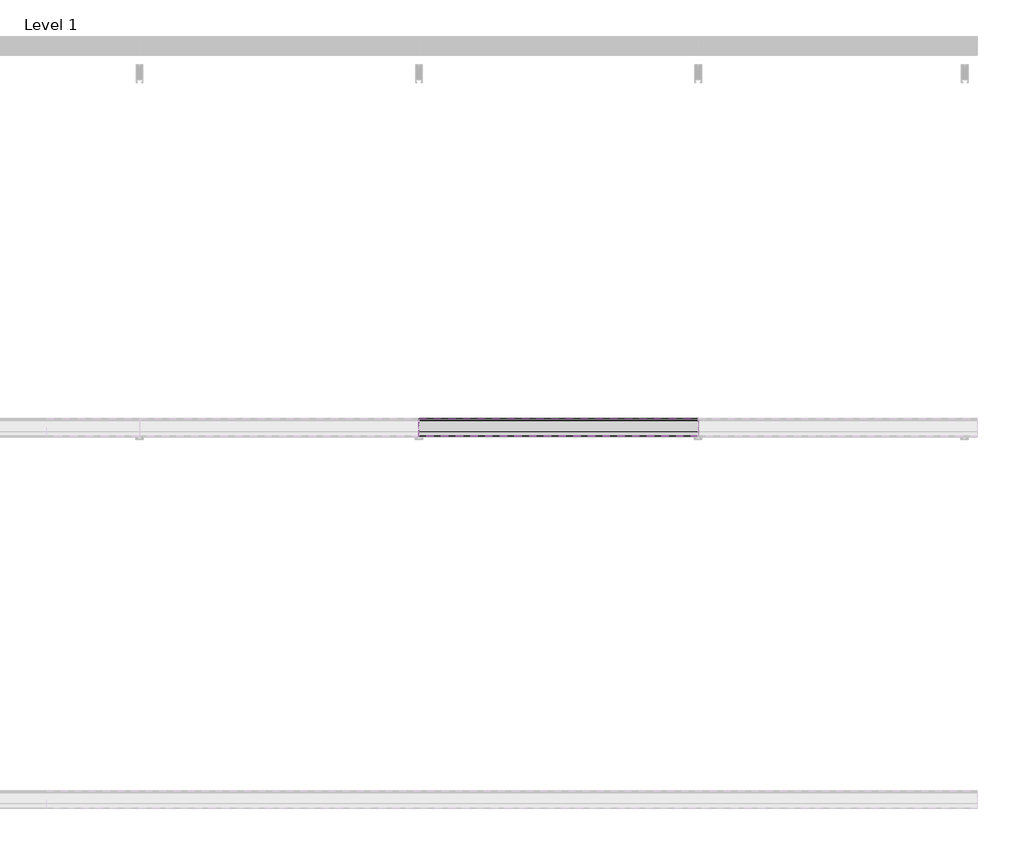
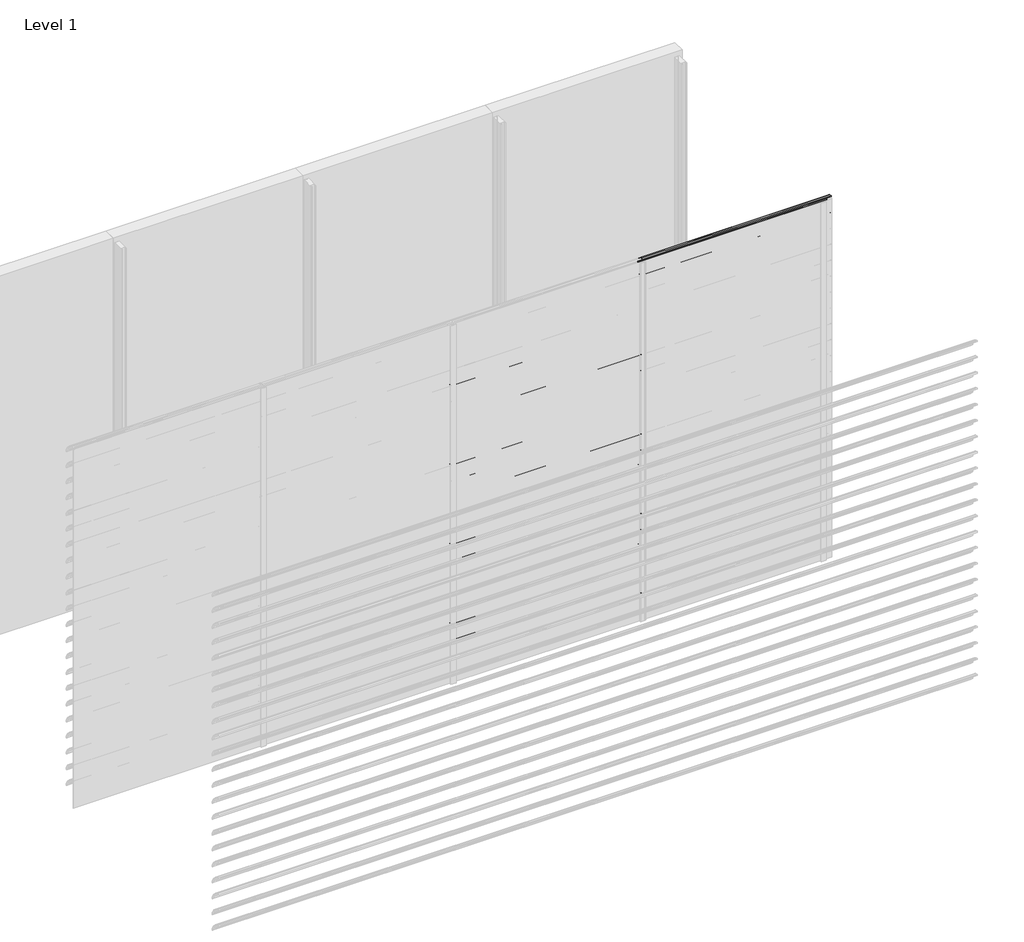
# One storey, part 34 of 57: 20 proxies.
"""IFC4 building model written with IfcOpenShell, lengths in millimetres."""

from ifc_helpers import new_model, si_unit, point, frame, frame_2d, origin, place, context, project, spatial, polyline, circle_curve, trimmed, segment, composite_curve, outline, extrude, element, save

model = new_model("IFC4")

# Units and contexts
model_context = context("Model", 3, world=origin())
ifc_project = project(units=[si_unit("LENGTHUNIT", "METRE", prefix="MILLI")], contexts=[model_context])

# Site, building, storey
site = spatial("IfcSite", under=ifc_project)
building = spatial("IfcBuilding", under=site)
storey = spatial("IfcBuildingStorey", under=building, Name="Level 1", Elevation=0.0)

# Proxies
placement = place(None, origin())
element("IfcBuildingElementProxy", 1, Name="Wall Sweeps", at=placement, inside=storey, context=model_context, shape_type="SweptSolid", body=[
    extrude(outline(composite_curve([segment(trimmed(circle_curve(frame_2d((-23993.7822526, 2484.4913792)), 4.2177474), [point((-23989.6985606, 2485.5462976))], [point((-23993.7822526, 2488.7091266))], False, "CARTESIAN"), True, "CONTINUOUS"), segment(trimmed(circle_curve(frame_2d((-24018.7150834, 2386.2536312)), 105.4456002), [point((-23993.7822526, 2488.7091266))], [point((-23971.7914298, 2480.6832099))], False, "CARTESIAN"), True, "CONTINUOUS"), segment(trimmed(circle_curve(frame_2d((-24061.7199745, 2332.0352476)), 173.7335887), [point((-23971.7914298, 2480.6832099))], [point((-23913.0720121, 2421.9637922))], False, "CARTESIAN"), True, "CONTINUOUS"), segment(trimmed(circle_curve(frame_2d((-24004.9297178, 2370.1860314)), 105.4456002), [point((-23913.0720121, 2421.9637922))], [point((-23903.6249616, 2399.4455765))], False, "CARTESIAN"), True, "CONTINUOUS"), segment(trimmed(circle_curve(frame_2d((-23907.809737, 2398.3307305)), 4.3307305), [point((-23903.6249616, 2399.4455765))], [point((-23909.0769196, 2394.189538))], False, "CARTESIAN"), True, "CONTINUOUS"), segment(polyline([(-23909.0769196, 2394.189538), (-23934.7401984, 2418.9722783)]), True, "CONTINUOUS"), segment(trimmed(circle_curve(frame_2d((-23931.3879574, 2421.2977626)), 4.079877), [point((-23934.7401984, 2418.9722783))], [point((-23930.7310597, 2425.3244091))], False, "CARTESIAN"), True, "CONTINUOUS"), segment(trimmed(circle_curve(frame_2d((-24014.6665585, 2403.2544323)), 86.7885467), [point((-23930.7310597, 2425.3244091))], [point((-23942.3028351, 2451.1683485))], True, "CARTESIAN"), True, "CONTINUOUS"), segment(polyline([(-23942.3028351, 2451.1683485), (-23940.7230099, 2453.9046861)]), True, "CONTINUOUS"), segment(trimmed(circle_curve(frame_2d((-24061.7199745, 2332.0352476)), 171.7335887), [point((-23940.7230099, 2453.9046861))], [point((-23972.7555872, 2478.9289618))], True, "CARTESIAN"), True, "CONTINUOUS"), segment(trimmed(circle_curve(frame_2d((-24018.7150834, 2386.2536312)), 103.4456002), [point((-23972.7555872, 2478.9289618))], [point((-23989.6985606, 2485.5462976))], True, "CARTESIAN"), True, "CONTINUOUS")], self_intersect=False)), frame((3000.0, 0.0, 0.0), z_axis=(1.0, 0.0, 0.0), x_axis=(0.0, 1.0, 0.0)), (0.0, 0.0, 1.0), 1500.0),
])
element("IfcBuildingElementProxy", 2, Name="Wall Sweeps", at=placement, inside=storey, context=model_context, shape_type="SweptSolid", body=[
    extrude(outline(composite_curve([segment(trimmed(circle_curve(frame_2d((-23993.7822526, 2351.4913792)), 4.2177474), [point((-23989.6985606, 2352.5462976))], [point((-23993.7822526, 2355.7091266))], False, "CARTESIAN"), True, "CONTINUOUS"), segment(trimmed(circle_curve(frame_2d((-24018.7150834, 2253.2536312)), 105.4456002), [point((-23993.7822526, 2355.7091266))], [point((-23971.7914298, 2347.6832099))], False, "CARTESIAN"), True, "CONTINUOUS"), segment(trimmed(circle_curve(frame_2d((-24061.7199745, 2199.0352476)), 173.7335887), [point((-23971.7914298, 2347.6832099))], [point((-23913.0720121, 2288.9637922))], False, "CARTESIAN"), True, "CONTINUOUS"), segment(trimmed(circle_curve(frame_2d((-24004.9297178, 2237.1860314)), 105.4456002), [point((-23913.0720121, 2288.9637922))], [point((-23903.6249616, 2266.4455765))], False, "CARTESIAN"), True, "CONTINUOUS"), segment(trimmed(circle_curve(frame_2d((-23907.809737, 2265.3307305)), 4.3307305), [point((-23903.6249616, 2266.4455765))], [point((-23909.0769196, 2261.189538))], False, "CARTESIAN"), True, "CONTINUOUS"), segment(polyline([(-23909.0769196, 2261.189538), (-23934.7401984, 2285.9722783)]), True, "CONTINUOUS"), segment(trimmed(circle_curve(frame_2d((-23931.3879574, 2288.2977626)), 4.079877), [point((-23934.7401984, 2285.9722783))], [point((-23930.7310597, 2292.3244091))], False, "CARTESIAN"), True, "CONTINUOUS"), segment(trimmed(circle_curve(frame_2d((-24014.6665585, 2270.2544323)), 86.7885467), [point((-23930.7310597, 2292.3244091))], [point((-23942.3028351, 2318.1683485))], True, "CARTESIAN"), True, "CONTINUOUS"), segment(polyline([(-23942.3028351, 2318.1683485), (-23940.7230099, 2320.9046861)]), True, "CONTINUOUS"), segment(trimmed(circle_curve(frame_2d((-24061.7199745, 2199.0352476)), 171.7335887), [point((-23940.7230099, 2320.9046861))], [point((-23972.7555872, 2345.9289618))], True, "CARTESIAN"), True, "CONTINUOUS"), segment(trimmed(circle_curve(frame_2d((-24018.7150834, 2253.2536312)), 103.4456002), [point((-23972.7555872, 2345.9289618))], [point((-23989.6985606, 2352.5462976))], True, "CARTESIAN"), True, "CONTINUOUS")], self_intersect=False)), frame((3000.0, 0.0, 0.0), z_axis=(1.0, 0.0, 0.0), x_axis=(0.0, 1.0, 0.0)), (0.0, 0.0, 1.0), 1500.0),
])
element("IfcBuildingElementProxy", 3, Name="Wall Sweeps", at=placement, inside=storey, context=model_context, shape_type="SweptSolid", body=[
    extrude(outline(composite_curve([segment(trimmed(circle_curve(frame_2d((-23993.7822526, 2218.4913792)), 4.2177474), [point((-23989.6985606, 2219.5462976))], [point((-23993.7822526, 2222.7091266))], False, "CARTESIAN"), True, "CONTINUOUS"), segment(trimmed(circle_curve(frame_2d((-24018.7150834, 2120.2536312)), 105.4456002), [point((-23993.7822526, 2222.7091266))], [point((-23971.7914298, 2214.6832099))], False, "CARTESIAN"), True, "CONTINUOUS"), segment(trimmed(circle_curve(frame_2d((-24061.7199745, 2066.0352476)), 173.7335887), [point((-23971.7914298, 2214.6832099))], [point((-23913.0720121, 2155.9637922))], False, "CARTESIAN"), True, "CONTINUOUS"), segment(trimmed(circle_curve(frame_2d((-24004.9297178, 2104.1860314)), 105.4456002), [point((-23913.0720121, 2155.9637922))], [point((-23903.6249616, 2133.4455765))], False, "CARTESIAN"), True, "CONTINUOUS"), segment(trimmed(circle_curve(frame_2d((-23907.809737, 2132.3307305)), 4.3307305), [point((-23903.6249616, 2133.4455765))], [point((-23909.0769196, 2128.189538))], False, "CARTESIAN"), True, "CONTINUOUS"), segment(polyline([(-23909.0769196, 2128.189538), (-23934.7401984, 2152.9722783)]), True, "CONTINUOUS"), segment(trimmed(circle_curve(frame_2d((-23931.3879574, 2155.2977626)), 4.079877), [point((-23934.7401984, 2152.9722783))], [point((-23930.7310597, 2159.3244091))], False, "CARTESIAN"), True, "CONTINUOUS"), segment(trimmed(circle_curve(frame_2d((-24014.6665585, 2137.2544323)), 86.7885467), [point((-23930.7310597, 2159.3244091))], [point((-23942.3028351, 2185.1683485))], True, "CARTESIAN"), True, "CONTINUOUS"), segment(polyline([(-23942.3028351, 2185.1683485), (-23940.7230099, 2187.9046861)]), True, "CONTINUOUS"), segment(trimmed(circle_curve(frame_2d((-24061.7199745, 2066.0352476)), 171.7335887), [point((-23940.7230099, 2187.9046861))], [point((-23972.7555872, 2212.9289618))], True, "CARTESIAN"), True, "CONTINUOUS"), segment(trimmed(circle_curve(frame_2d((-24018.7150834, 2120.2536312)), 103.4456002), [point((-23972.7555872, 2212.9289618))], [point((-23989.6985606, 2219.5462976))], True, "CARTESIAN"), True, "CONTINUOUS")], self_intersect=False)), frame((3000.0, 0.0, 0.0), z_axis=(1.0, 0.0, 0.0), x_axis=(0.0, 1.0, 0.0)), (0.0, 0.0, 1.0), 1500.0),
])
element("IfcBuildingElementProxy", 4, Name="Wall Sweeps", at=placement, inside=storey, context=model_context, shape_type="SweptSolid", body=[
    extrude(outline(composite_curve([segment(trimmed(circle_curve(frame_2d((-23993.7822526, 2085.4913792)), 4.2177474), [point((-23989.6985606, 2086.5462976))], [point((-23993.7822526, 2089.7091266))], False, "CARTESIAN"), True, "CONTINUOUS"), segment(trimmed(circle_curve(frame_2d((-24018.7150834, 1987.2536312)), 105.4456002), [point((-23993.7822526, 2089.7091266))], [point((-23971.7914298, 2081.6832099))], False, "CARTESIAN"), True, "CONTINUOUS"), segment(trimmed(circle_curve(frame_2d((-24061.7199745, 1933.0352476)), 173.7335887), [point((-23971.7914298, 2081.6832099))], [point((-23913.0720121, 2022.9637922))], False, "CARTESIAN"), True, "CONTINUOUS"), segment(trimmed(circle_curve(frame_2d((-24004.9297178, 1971.1860314)), 105.4456002), [point((-23913.0720121, 2022.9637922))], [point((-23903.6249616, 2000.4455765))], False, "CARTESIAN"), True, "CONTINUOUS"), segment(trimmed(circle_curve(frame_2d((-23907.809737, 1999.3307305)), 4.3307305), [point((-23903.6249616, 2000.4455765))], [point((-23909.0769196, 1995.189538))], False, "CARTESIAN"), True, "CONTINUOUS"), segment(polyline([(-23909.0769196, 1995.189538), (-23934.7401984, 2019.9722783)]), True, "CONTINUOUS"), segment(trimmed(circle_curve(frame_2d((-23931.3879574, 2022.2977626)), 4.079877), [point((-23934.7401984, 2019.9722783))], [point((-23930.7310597, 2026.3244091))], False, "CARTESIAN"), True, "CONTINUOUS"), segment(trimmed(circle_curve(frame_2d((-24014.6665585, 2004.2544323)), 86.7885467), [point((-23930.7310597, 2026.3244091))], [point((-23942.3028351, 2052.1683485))], True, "CARTESIAN"), True, "CONTINUOUS"), segment(polyline([(-23942.3028351, 2052.1683485), (-23940.7230099, 2054.9046861)]), True, "CONTINUOUS"), segment(trimmed(circle_curve(frame_2d((-24061.7199745, 1933.0352476)), 171.7335887), [point((-23940.7230099, 2054.9046861))], [point((-23972.7555872, 2079.9289618))], True, "CARTESIAN"), True, "CONTINUOUS"), segment(trimmed(circle_curve(frame_2d((-24018.7150834, 1987.2536312)), 103.4456002), [point((-23972.7555872, 2079.9289618))], [point((-23989.6985606, 2086.5462976))], True, "CARTESIAN"), True, "CONTINUOUS")], self_intersect=False)), frame((3000.0, 0.0, 0.0), z_axis=(1.0, 0.0, 0.0), x_axis=(0.0, 1.0, 0.0)), (0.0, 0.0, 1.0), 1500.0),
])
element("IfcBuildingElementProxy", 5, Name="Wall Sweeps", at=placement, inside=storey, context=model_context, shape_type="SweptSolid", body=[
    extrude(outline(composite_curve([segment(trimmed(circle_curve(frame_2d((-23993.7822526, 1952.4913792)), 4.2177474), [point((-23989.6985606, 1953.5462976))], [point((-23993.7822526, 1956.7091266))], False, "CARTESIAN"), True, "CONTINUOUS"), segment(trimmed(circle_curve(frame_2d((-24018.7150834, 1854.2536312)), 105.4456002), [point((-23993.7822526, 1956.7091266))], [point((-23971.7914298, 1948.6832099))], False, "CARTESIAN"), True, "CONTINUOUS"), segment(trimmed(circle_curve(frame_2d((-24061.7199745, 1800.0352476)), 173.7335887), [point((-23971.7914298, 1948.6832099))], [point((-23913.0720121, 1889.9637922))], False, "CARTESIAN"), True, "CONTINUOUS"), segment(trimmed(circle_curve(frame_2d((-24004.9297178, 1838.1860314)), 105.4456002), [point((-23913.0720121, 1889.9637922))], [point((-23903.6249616, 1867.4455765))], False, "CARTESIAN"), True, "CONTINUOUS"), segment(trimmed(circle_curve(frame_2d((-23907.809737, 1866.3307305)), 4.3307305), [point((-23903.6249616, 1867.4455765))], [point((-23909.0769196, 1862.189538))], False, "CARTESIAN"), True, "CONTINUOUS"), segment(polyline([(-23909.0769196, 1862.189538), (-23934.7401984, 1886.9722783)]), True, "CONTINUOUS"), segment(trimmed(circle_curve(frame_2d((-23931.3879574, 1889.2977626)), 4.079877), [point((-23934.7401984, 1886.9722783))], [point((-23930.7310597, 1893.3244091))], False, "CARTESIAN"), True, "CONTINUOUS"), segment(trimmed(circle_curve(frame_2d((-24014.6665585, 1871.2544323)), 86.7885467), [point((-23930.7310597, 1893.3244091))], [point((-23942.3028351, 1919.1683485))], True, "CARTESIAN"), True, "CONTINUOUS"), segment(polyline([(-23942.3028351, 1919.1683485), (-23940.7230099, 1921.9046861)]), True, "CONTINUOUS"), segment(trimmed(circle_curve(frame_2d((-24061.7199745, 1800.0352476)), 171.7335887), [point((-23940.7230099, 1921.9046861))], [point((-23972.7555872, 1946.9289618))], True, "CARTESIAN"), True, "CONTINUOUS"), segment(trimmed(circle_curve(frame_2d((-24018.7150834, 1854.2536312)), 103.4456002), [point((-23972.7555872, 1946.9289618))], [point((-23989.6985606, 1953.5462976))], True, "CARTESIAN"), True, "CONTINUOUS")], self_intersect=False)), frame((3000.0, 0.0, 0.0), z_axis=(1.0, 0.0, 0.0), x_axis=(0.0, 1.0, 0.0)), (0.0, 0.0, 1.0), 1500.0),
])
element("IfcBuildingElementProxy", 6, Name="Wall Sweeps", at=placement, inside=storey, context=model_context, shape_type="SweptSolid", body=[
    extrude(outline(composite_curve([segment(trimmed(circle_curve(frame_2d((-23993.7822526, 1819.4913792)), 4.2177474), [point((-23989.6985606, 1820.5462976))], [point((-23993.7822526, 1823.7091266))], False, "CARTESIAN"), True, "CONTINUOUS"), segment(trimmed(circle_curve(frame_2d((-24018.7150834, 1721.2536312)), 105.4456002), [point((-23993.7822526, 1823.7091266))], [point((-23971.7914298, 1815.6832099))], False, "CARTESIAN"), True, "CONTINUOUS"), segment(trimmed(circle_curve(frame_2d((-24061.7199745, 1667.0352476)), 173.7335887), [point((-23971.7914298, 1815.6832099))], [point((-23913.0720121, 1756.9637922))], False, "CARTESIAN"), True, "CONTINUOUS"), segment(trimmed(circle_curve(frame_2d((-24004.9297178, 1705.1860314)), 105.4456002), [point((-23913.0720121, 1756.9637922))], [point((-23903.6249616, 1734.4455765))], False, "CARTESIAN"), True, "CONTINUOUS"), segment(trimmed(circle_curve(frame_2d((-23907.809737, 1733.3307305)), 4.3307305), [point((-23903.6249616, 1734.4455765))], [point((-23909.0769196, 1729.189538))], False, "CARTESIAN"), True, "CONTINUOUS"), segment(polyline([(-23909.0769196, 1729.189538), (-23934.7401984, 1753.9722783)]), True, "CONTINUOUS"), segment(trimmed(circle_curve(frame_2d((-23931.3879574, 1756.2977626)), 4.079877), [point((-23934.7401984, 1753.9722783))], [point((-23930.7310597, 1760.3244091))], False, "CARTESIAN"), True, "CONTINUOUS"), segment(trimmed(circle_curve(frame_2d((-24014.6665585, 1738.2544323)), 86.7885467), [point((-23930.7310597, 1760.3244091))], [point((-23942.3028351, 1786.1683485))], True, "CARTESIAN"), True, "CONTINUOUS"), segment(polyline([(-23942.3028351, 1786.1683485), (-23940.7230099, 1788.9046861)]), True, "CONTINUOUS"), segment(trimmed(circle_curve(frame_2d((-24061.7199745, 1667.0352476)), 171.7335887), [point((-23940.7230099, 1788.9046861))], [point((-23972.7555872, 1813.9289618))], True, "CARTESIAN"), True, "CONTINUOUS"), segment(trimmed(circle_curve(frame_2d((-24018.7150834, 1721.2536312)), 103.4456002), [point((-23972.7555872, 1813.9289618))], [point((-23989.6985606, 1820.5462976))], True, "CARTESIAN"), True, "CONTINUOUS")], self_intersect=False)), frame((3000.0, 0.0, 0.0), z_axis=(1.0, 0.0, 0.0), x_axis=(0.0, 1.0, 0.0)), (0.0, 0.0, 1.0), 1500.0),
])
element("IfcBuildingElementProxy", 7, Name="Wall Sweeps", at=placement, inside=storey, context=model_context, shape_type="SweptSolid", body=[
    extrude(outline(composite_curve([segment(trimmed(circle_curve(frame_2d((-23993.7822526, 1686.4913792)), 4.2177474), [point((-23989.6985606, 1687.5462976))], [point((-23993.7822526, 1690.7091266))], False, "CARTESIAN"), True, "CONTINUOUS"), segment(trimmed(circle_curve(frame_2d((-24018.7150834, 1588.2536312)), 105.4456002), [point((-23993.7822526, 1690.7091266))], [point((-23971.7914298, 1682.6832099))], False, "CARTESIAN"), True, "CONTINUOUS"), segment(trimmed(circle_curve(frame_2d((-24061.7199745, 1534.0352476)), 173.7335887), [point((-23971.7914298, 1682.6832099))], [point((-23913.0720121, 1623.9637922))], False, "CARTESIAN"), True, "CONTINUOUS"), segment(trimmed(circle_curve(frame_2d((-24004.9297178, 1572.1860314)), 105.4456002), [point((-23913.0720121, 1623.9637922))], [point((-23903.6249616, 1601.4455765))], False, "CARTESIAN"), True, "CONTINUOUS"), segment(trimmed(circle_curve(frame_2d((-23907.809737, 1600.3307305)), 4.3307305), [point((-23903.6249616, 1601.4455765))], [point((-23909.0769196, 1596.189538))], False, "CARTESIAN"), True, "CONTINUOUS"), segment(polyline([(-23909.0769196, 1596.189538), (-23934.7401984, 1620.9722783)]), True, "CONTINUOUS"), segment(trimmed(circle_curve(frame_2d((-23931.3879574, 1623.2977626)), 4.079877), [point((-23934.7401984, 1620.9722783))], [point((-23930.7310597, 1627.3244091))], False, "CARTESIAN"), True, "CONTINUOUS"), segment(trimmed(circle_curve(frame_2d((-24014.6665585, 1605.2544323)), 86.7885467), [point((-23930.7310597, 1627.3244091))], [point((-23942.3028351, 1653.1683485))], True, "CARTESIAN"), True, "CONTINUOUS"), segment(polyline([(-23942.3028351, 1653.1683485), (-23940.7230099, 1655.9046861)]), True, "CONTINUOUS"), segment(trimmed(circle_curve(frame_2d((-24061.7199745, 1534.0352476)), 171.7335887), [point((-23940.7230099, 1655.9046861))], [point((-23972.7555872, 1680.9289618))], True, "CARTESIAN"), True, "CONTINUOUS"), segment(trimmed(circle_curve(frame_2d((-24018.7150834, 1588.2536312)), 103.4456002), [point((-23972.7555872, 1680.9289618))], [point((-23989.6985606, 1687.5462976))], True, "CARTESIAN"), True, "CONTINUOUS")], self_intersect=False)), frame((3000.0, 0.0, 0.0), z_axis=(1.0, 0.0, 0.0), x_axis=(0.0, 1.0, 0.0)), (0.0, 0.0, 1.0), 1500.0),
])
element("IfcBuildingElementProxy", 8, Name="Wall Sweeps", at=placement, inside=storey, context=model_context, shape_type="SweptSolid", body=[
    extrude(outline(composite_curve([segment(trimmed(circle_curve(frame_2d((-23993.7822526, 1553.4913792)), 4.2177474), [point((-23989.6985606, 1554.5462976))], [point((-23993.7822526, 1557.7091266))], False, "CARTESIAN"), True, "CONTINUOUS"), segment(trimmed(circle_curve(frame_2d((-24018.7150834, 1455.2536312)), 105.4456002), [point((-23993.7822526, 1557.7091266))], [point((-23971.7914298, 1549.6832099))], False, "CARTESIAN"), True, "CONTINUOUS"), segment(trimmed(circle_curve(frame_2d((-24061.7199745, 1401.0352476)), 173.7335887), [point((-23971.7914298, 1549.6832099))], [point((-23913.0720121, 1490.9637922))], False, "CARTESIAN"), True, "CONTINUOUS"), segment(trimmed(circle_curve(frame_2d((-24004.9297178, 1439.1860314)), 105.4456002), [point((-23913.0720121, 1490.9637922))], [point((-23903.6249616, 1468.4455765))], False, "CARTESIAN"), True, "CONTINUOUS"), segment(trimmed(circle_curve(frame_2d((-23907.809737, 1467.3307305)), 4.3307305), [point((-23903.6249616, 1468.4455765))], [point((-23909.0769196, 1463.189538))], False, "CARTESIAN"), True, "CONTINUOUS"), segment(polyline([(-23909.0769196, 1463.189538), (-23934.7401984, 1487.9722783)]), True, "CONTINUOUS"), segment(trimmed(circle_curve(frame_2d((-23931.3879574, 1490.2977626)), 4.079877), [point((-23934.7401984, 1487.9722783))], [point((-23930.7310597, 1494.3244091))], False, "CARTESIAN"), True, "CONTINUOUS"), segment(trimmed(circle_curve(frame_2d((-24014.6665585, 1472.2544323)), 86.7885467), [point((-23930.7310597, 1494.3244091))], [point((-23942.3028351, 1520.1683485))], True, "CARTESIAN"), True, "CONTINUOUS"), segment(polyline([(-23942.3028351, 1520.1683485), (-23940.7230099, 1522.9046861)]), True, "CONTINUOUS"), segment(trimmed(circle_curve(frame_2d((-24061.7199745, 1401.0352476)), 171.7335887), [point((-23940.7230099, 1522.9046861))], [point((-23972.7555872, 1547.9289618))], True, "CARTESIAN"), True, "CONTINUOUS"), segment(trimmed(circle_curve(frame_2d((-24018.7150834, 1455.2536312)), 103.4456002), [point((-23972.7555872, 1547.9289618))], [point((-23989.6985606, 1554.5462976))], True, "CARTESIAN"), True, "CONTINUOUS")], self_intersect=False)), frame((3000.0, 0.0, 0.0), z_axis=(1.0, 0.0, 0.0), x_axis=(0.0, 1.0, 0.0)), (0.0, 0.0, 1.0), 1500.0),
])
element("IfcBuildingElementProxy", 9, Name="Wall Sweeps", at=placement, inside=storey, context=model_context, shape_type="SweptSolid", body=[
    extrude(outline(composite_curve([segment(trimmed(circle_curve(frame_2d((-23993.7822526, 1420.4913792)), 4.2177474), [point((-23989.6985606, 1421.5462976))], [point((-23993.7822526, 1424.7091266))], False, "CARTESIAN"), True, "CONTINUOUS"), segment(trimmed(circle_curve(frame_2d((-24018.7150834, 1322.2536312)), 105.4456002), [point((-23993.7822526, 1424.7091266))], [point((-23971.7914298, 1416.6832099))], False, "CARTESIAN"), True, "CONTINUOUS"), segment(trimmed(circle_curve(frame_2d((-24061.7199745, 1268.0352476)), 173.7335887), [point((-23971.7914298, 1416.6832099))], [point((-23913.0720121, 1357.9637922))], False, "CARTESIAN"), True, "CONTINUOUS"), segment(trimmed(circle_curve(frame_2d((-24004.9297178, 1306.1860314)), 105.4456002), [point((-23913.0720121, 1357.9637922))], [point((-23903.6249616, 1335.4455765))], False, "CARTESIAN"), True, "CONTINUOUS"), segment(trimmed(circle_curve(frame_2d((-23907.809737, 1334.3307305)), 4.3307305), [point((-23903.6249616, 1335.4455765))], [point((-23909.0769196, 1330.189538))], False, "CARTESIAN"), True, "CONTINUOUS"), segment(polyline([(-23909.0769196, 1330.189538), (-23934.7401984, 1354.9722783)]), True, "CONTINUOUS"), segment(trimmed(circle_curve(frame_2d((-23931.3879574, 1357.2977626)), 4.079877), [point((-23934.7401984, 1354.9722783))], [point((-23930.7310597, 1361.3244091))], False, "CARTESIAN"), True, "CONTINUOUS"), segment(trimmed(circle_curve(frame_2d((-24014.6665585, 1339.2544323)), 86.7885467), [point((-23930.7310597, 1361.3244091))], [point((-23942.3028351, 1387.1683485))], True, "CARTESIAN"), True, "CONTINUOUS"), segment(polyline([(-23942.3028351, 1387.1683485), (-23940.7230099, 1389.9046861)]), True, "CONTINUOUS"), segment(trimmed(circle_curve(frame_2d((-24061.7199745, 1268.0352476)), 171.7335887), [point((-23940.7230099, 1389.9046861))], [point((-23972.7555872, 1414.9289618))], True, "CARTESIAN"), True, "CONTINUOUS"), segment(trimmed(circle_curve(frame_2d((-24018.7150834, 1322.2536312)), 103.4456002), [point((-23972.7555872, 1414.9289618))], [point((-23989.6985606, 1421.5462976))], True, "CARTESIAN"), True, "CONTINUOUS")], self_intersect=False)), frame((3000.0, 0.0, 0.0), z_axis=(1.0, 0.0, 0.0), x_axis=(0.0, 1.0, 0.0)), (0.0, 0.0, 1.0), 1500.0),
])
element("IfcBuildingElementProxy", 10, Name="Wall Sweeps", at=placement, inside=storey, context=model_context, shape_type="SweptSolid", body=[
    extrude(outline(composite_curve([segment(trimmed(circle_curve(frame_2d((-23993.7822526, 1287.4913792)), 4.2177474), [point((-23989.6985606, 1288.5462976))], [point((-23993.7822526, 1291.7091266))], False, "CARTESIAN"), True, "CONTINUOUS"), segment(trimmed(circle_curve(frame_2d((-24018.7150834, 1189.2536312)), 105.4456002), [point((-23993.7822526, 1291.7091266))], [point((-23971.7914298, 1283.6832099))], False, "CARTESIAN"), True, "CONTINUOUS"), segment(trimmed(circle_curve(frame_2d((-24061.7199745, 1135.0352476)), 173.7335887), [point((-23971.7914298, 1283.6832099))], [point((-23913.0720121, 1224.9637922))], False, "CARTESIAN"), True, "CONTINUOUS"), segment(trimmed(circle_curve(frame_2d((-24004.9297178, 1173.1860314)), 105.4456002), [point((-23913.0720121, 1224.9637922))], [point((-23903.6249616, 1202.4455765))], False, "CARTESIAN"), True, "CONTINUOUS"), segment(trimmed(circle_curve(frame_2d((-23907.809737, 1201.3307305)), 4.3307305), [point((-23903.6249616, 1202.4455765))], [point((-23909.0769196, 1197.189538))], False, "CARTESIAN"), True, "CONTINUOUS"), segment(polyline([(-23909.0769196, 1197.189538), (-23934.7401984, 1221.9722783)]), True, "CONTINUOUS"), segment(trimmed(circle_curve(frame_2d((-23931.3879574, 1224.2977626)), 4.079877), [point((-23934.7401984, 1221.9722783))], [point((-23930.7310597, 1228.3244091))], False, "CARTESIAN"), True, "CONTINUOUS"), segment(trimmed(circle_curve(frame_2d((-24014.6665585, 1206.2544323)), 86.7885467), [point((-23930.7310597, 1228.3244091))], [point((-23942.3028351, 1254.1683485))], True, "CARTESIAN"), True, "CONTINUOUS"), segment(polyline([(-23942.3028351, 1254.1683485), (-23940.7230099, 1256.9046861)]), True, "CONTINUOUS"), segment(trimmed(circle_curve(frame_2d((-24061.7199745, 1135.0352476)), 171.7335887), [point((-23940.7230099, 1256.9046861))], [point((-23972.7555872, 1281.9289618))], True, "CARTESIAN"), True, "CONTINUOUS"), segment(trimmed(circle_curve(frame_2d((-24018.7150834, 1189.2536312)), 103.4456002), [point((-23972.7555872, 1281.9289618))], [point((-23989.6985606, 1288.5462976))], True, "CARTESIAN"), True, "CONTINUOUS")], self_intersect=False)), frame((3000.0, 0.0, 0.0), z_axis=(1.0, 0.0, 0.0), x_axis=(0.0, 1.0, 0.0)), (0.0, 0.0, 1.0), 1500.0),
])
element("IfcBuildingElementProxy", 11, Name="Wall Sweeps", at=placement, inside=storey, context=model_context, shape_type="SweptSolid", body=[
    extrude(outline(composite_curve([segment(trimmed(circle_curve(frame_2d((-23993.7822526, 1154.4913792)), 4.2177474), [point((-23989.6985606, 1155.5462976))], [point((-23993.7822526, 1158.7091266))], False, "CARTESIAN"), True, "CONTINUOUS"), segment(trimmed(circle_curve(frame_2d((-24018.7150834, 1056.2536312)), 105.4456002), [point((-23993.7822526, 1158.7091266))], [point((-23971.7914298, 1150.6832099))], False, "CARTESIAN"), True, "CONTINUOUS"), segment(trimmed(circle_curve(frame_2d((-24061.7199745, 1002.0352476)), 173.7335887), [point((-23971.7914298, 1150.6832099))], [point((-23913.0720121, 1091.9637922))], False, "CARTESIAN"), True, "CONTINUOUS"), segment(trimmed(circle_curve(frame_2d((-24004.9297178, 1040.1860314)), 105.4456002), [point((-23913.0720121, 1091.9637922))], [point((-23903.6249616, 1069.4455765))], False, "CARTESIAN"), True, "CONTINUOUS"), segment(trimmed(circle_curve(frame_2d((-23907.809737, 1068.3307305)), 4.3307305), [point((-23903.6249616, 1069.4455765))], [point((-23909.0769196, 1064.189538))], False, "CARTESIAN"), True, "CONTINUOUS"), segment(polyline([(-23909.0769196, 1064.189538), (-23934.7401984, 1088.9722783)]), True, "CONTINUOUS"), segment(trimmed(circle_curve(frame_2d((-23931.3879574, 1091.2977626)), 4.079877), [point((-23934.7401984, 1088.9722783))], [point((-23930.7310597, 1095.3244091))], False, "CARTESIAN"), True, "CONTINUOUS"), segment(trimmed(circle_curve(frame_2d((-24014.6665585, 1073.2544323)), 86.7885467), [point((-23930.7310597, 1095.3244091))], [point((-23942.3028351, 1121.1683485))], True, "CARTESIAN"), True, "CONTINUOUS"), segment(polyline([(-23942.3028351, 1121.1683485), (-23940.7230099, 1123.9046861)]), True, "CONTINUOUS"), segment(trimmed(circle_curve(frame_2d((-24061.7199745, 1002.0352476)), 171.7335887), [point((-23940.7230099, 1123.9046861))], [point((-23972.7555872, 1148.9289618))], True, "CARTESIAN"), True, "CONTINUOUS"), segment(trimmed(circle_curve(frame_2d((-24018.7150834, 1056.2536312)), 103.4456002), [point((-23972.7555872, 1148.9289618))], [point((-23989.6985606, 1155.5462976))], True, "CARTESIAN"), True, "CONTINUOUS")], self_intersect=False)), frame((3000.0, 0.0, 0.0), z_axis=(1.0, 0.0, 0.0), x_axis=(0.0, 1.0, 0.0)), (0.0, 0.0, 1.0), 1500.0),
])
element("IfcBuildingElementProxy", 12, Name="Wall Sweeps", at=placement, inside=storey, context=model_context, shape_type="SweptSolid", body=[
    extrude(outline(composite_curve([segment(trimmed(circle_curve(frame_2d((-23993.7822526, 1021.4913792)), 4.2177474), [point((-23989.6985606, 1022.5462976))], [point((-23993.7822526, 1025.7091266))], False, "CARTESIAN"), True, "CONTINUOUS"), segment(trimmed(circle_curve(frame_2d((-24018.7150834, 923.2536312)), 105.4456002), [point((-23993.7822526, 1025.7091266))], [point((-23971.7914298, 1017.6832099))], False, "CARTESIAN"), True, "CONTINUOUS"), segment(trimmed(circle_curve(frame_2d((-24061.7199745, 869.0352476)), 173.7335887), [point((-23971.7914298, 1017.6832099))], [point((-23913.0720121, 958.9637922))], False, "CARTESIAN"), True, "CONTINUOUS"), segment(trimmed(circle_curve(frame_2d((-24004.9297178, 907.1860314)), 105.4456002), [point((-23913.0720121, 958.9637922))], [point((-23903.6249616, 936.4455765))], False, "CARTESIAN"), True, "CONTINUOUS"), segment(trimmed(circle_curve(frame_2d((-23907.809737, 935.3307305)), 4.3307305), [point((-23903.6249616, 936.4455765))], [point((-23909.0769196, 931.189538))], False, "CARTESIAN"), True, "CONTINUOUS"), segment(polyline([(-23909.0769196, 931.189538), (-23934.7401984, 955.9722783)]), True, "CONTINUOUS"), segment(trimmed(circle_curve(frame_2d((-23931.3879574, 958.2977626)), 4.079877), [point((-23934.7401984, 955.9722783))], [point((-23930.7310597, 962.3244091))], False, "CARTESIAN"), True, "CONTINUOUS"), segment(trimmed(circle_curve(frame_2d((-24014.6665585, 940.2544323)), 86.7885467), [point((-23930.7310597, 962.3244091))], [point((-23942.3028351, 988.1683485))], True, "CARTESIAN"), True, "CONTINUOUS"), segment(polyline([(-23942.3028351, 988.1683485), (-23940.7230099, 990.9046861)]), True, "CONTINUOUS"), segment(trimmed(circle_curve(frame_2d((-24061.7199745, 869.0352476)), 171.7335887), [point((-23940.7230099, 990.9046861))], [point((-23972.7555872, 1015.9289618))], True, "CARTESIAN"), True, "CONTINUOUS"), segment(trimmed(circle_curve(frame_2d((-24018.7150834, 923.2536312)), 103.4456002), [point((-23972.7555872, 1015.9289618))], [point((-23989.6985606, 1022.5462976))], True, "CARTESIAN"), True, "CONTINUOUS")], self_intersect=False)), frame((3000.0, 0.0, 0.0), z_axis=(1.0, 0.0, 0.0), x_axis=(0.0, 1.0, 0.0)), (0.0, 0.0, 1.0), 1500.0),
])
element("IfcBuildingElementProxy", 13, Name="Wall Sweeps", at=placement, inside=storey, context=model_context, shape_type="SweptSolid", body=[
    extrude(outline(composite_curve([segment(trimmed(circle_curve(frame_2d((-23993.7822526, 888.4913792)), 4.2177474), [point((-23989.6985606, 889.5462976))], [point((-23993.7822526, 892.7091266))], False, "CARTESIAN"), True, "CONTINUOUS"), segment(trimmed(circle_curve(frame_2d((-24018.7150834, 790.2536312)), 105.4456002), [point((-23993.7822526, 892.7091266))], [point((-23971.7914298, 884.6832099))], False, "CARTESIAN"), True, "CONTINUOUS"), segment(trimmed(circle_curve(frame_2d((-24061.7199745, 736.0352476)), 173.7335887), [point((-23971.7914298, 884.6832099))], [point((-23913.0720121, 825.9637922))], False, "CARTESIAN"), True, "CONTINUOUS"), segment(trimmed(circle_curve(frame_2d((-24004.9297178, 774.1860314)), 105.4456002), [point((-23913.0720121, 825.9637922))], [point((-23903.6249616, 803.4455765))], False, "CARTESIAN"), True, "CONTINUOUS"), segment(trimmed(circle_curve(frame_2d((-23907.809737, 802.3307305)), 4.3307305), [point((-23903.6249616, 803.4455765))], [point((-23909.0769196, 798.189538))], False, "CARTESIAN"), True, "CONTINUOUS"), segment(polyline([(-23909.0769196, 798.189538), (-23934.7401984, 822.9722783)]), True, "CONTINUOUS"), segment(trimmed(circle_curve(frame_2d((-23931.3879574, 825.2977626)), 4.079877), [point((-23934.7401984, 822.9722783))], [point((-23930.7310597, 829.3244091))], False, "CARTESIAN"), True, "CONTINUOUS"), segment(trimmed(circle_curve(frame_2d((-24014.6665585, 807.2544323)), 86.7885467), [point((-23930.7310597, 829.3244091))], [point((-23942.3028351, 855.1683485))], True, "CARTESIAN"), True, "CONTINUOUS"), segment(polyline([(-23942.3028351, 855.1683485), (-23940.7230099, 857.9046861)]), True, "CONTINUOUS"), segment(trimmed(circle_curve(frame_2d((-24061.7199745, 736.0352476)), 171.7335887), [point((-23940.7230099, 857.9046861))], [point((-23972.7555872, 882.9289618))], True, "CARTESIAN"), True, "CONTINUOUS"), segment(trimmed(circle_curve(frame_2d((-24018.7150834, 790.2536312)), 103.4456002), [point((-23972.7555872, 882.9289618))], [point((-23989.6985606, 889.5462976))], True, "CARTESIAN"), True, "CONTINUOUS")], self_intersect=False)), frame((3000.0, 0.0, 0.0), z_axis=(1.0, 0.0, 0.0), x_axis=(0.0, 1.0, 0.0)), (0.0, 0.0, 1.0), 1500.0),
])
element("IfcBuildingElementProxy", 14, Name="Wall Sweeps", at=placement, inside=storey, context=model_context, shape_type="SweptSolid", body=[
    extrude(outline(composite_curve([segment(trimmed(circle_curve(frame_2d((-23993.7822526, 755.4913792)), 4.2177474), [point((-23989.6985606, 756.5462976))], [point((-23993.7822526, 759.7091266))], False, "CARTESIAN"), True, "CONTINUOUS"), segment(trimmed(circle_curve(frame_2d((-24018.7150834, 657.2536312)), 105.4456002), [point((-23993.7822526, 759.7091266))], [point((-23971.7914298, 751.6832099))], False, "CARTESIAN"), True, "CONTINUOUS"), segment(trimmed(circle_curve(frame_2d((-24061.7199745, 603.0352476)), 173.7335887), [point((-23971.7914298, 751.6832099))], [point((-23913.0720121, 692.9637922))], False, "CARTESIAN"), True, "CONTINUOUS"), segment(trimmed(circle_curve(frame_2d((-24004.9297178, 641.1860314)), 105.4456002), [point((-23913.0720121, 692.9637922))], [point((-23903.6249616, 670.4455765))], False, "CARTESIAN"), True, "CONTINUOUS"), segment(trimmed(circle_curve(frame_2d((-23907.809737, 669.3307305)), 4.3307305), [point((-23903.6249616, 670.4455765))], [point((-23909.0769196, 665.189538))], False, "CARTESIAN"), True, "CONTINUOUS"), segment(polyline([(-23909.0769196, 665.189538), (-23934.7401984, 689.9722783)]), True, "CONTINUOUS"), segment(trimmed(circle_curve(frame_2d((-23931.3879574, 692.2977626)), 4.079877), [point((-23934.7401984, 689.9722783))], [point((-23930.7310597, 696.3244091))], False, "CARTESIAN"), True, "CONTINUOUS"), segment(trimmed(circle_curve(frame_2d((-24014.6665585, 674.2544323)), 86.7885467), [point((-23930.7310597, 696.3244091))], [point((-23942.3028351, 722.1683485))], True, "CARTESIAN"), True, "CONTINUOUS"), segment(polyline([(-23942.3028351, 722.1683485), (-23940.7230099, 724.9046861)]), True, "CONTINUOUS"), segment(trimmed(circle_curve(frame_2d((-24061.7199745, 603.0352476)), 171.7335887), [point((-23940.7230099, 724.9046861))], [point((-23972.7555872, 749.9289618))], True, "CARTESIAN"), True, "CONTINUOUS"), segment(trimmed(circle_curve(frame_2d((-24018.7150834, 657.2536312)), 103.4456002), [point((-23972.7555872, 749.9289618))], [point((-23989.6985606, 756.5462976))], True, "CARTESIAN"), True, "CONTINUOUS")], self_intersect=False)), frame((3000.0, 0.0, 0.0), z_axis=(1.0, 0.0, 0.0), x_axis=(0.0, 1.0, 0.0)), (0.0, 0.0, 1.0), 1500.0),
])
element("IfcBuildingElementProxy", 15, Name="Wall Sweeps", at=placement, inside=storey, context=model_context, shape_type="SweptSolid", body=[
    extrude(outline(composite_curve([segment(trimmed(circle_curve(frame_2d((-23993.7822526, 622.4913792)), 4.2177474), [point((-23989.6985606, 623.5462976))], [point((-23993.7822526, 626.7091266))], False, "CARTESIAN"), True, "CONTINUOUS"), segment(trimmed(circle_curve(frame_2d((-24018.7150834, 524.2536312)), 105.4456002), [point((-23993.7822526, 626.7091266))], [point((-23971.7914298, 618.6832099))], False, "CARTESIAN"), True, "CONTINUOUS"), segment(trimmed(circle_curve(frame_2d((-24061.7199745, 470.0352476)), 173.7335887), [point((-23971.7914298, 618.6832099))], [point((-23913.0720121, 559.9637922))], False, "CARTESIAN"), True, "CONTINUOUS"), segment(trimmed(circle_curve(frame_2d((-24004.9297178, 508.1860314)), 105.4456002), [point((-23913.0720121, 559.9637922))], [point((-23903.6249616, 537.4455765))], False, "CARTESIAN"), True, "CONTINUOUS"), segment(trimmed(circle_curve(frame_2d((-23907.809737, 536.3307305)), 4.3307305), [point((-23903.6249616, 537.4455765))], [point((-23909.0769196, 532.189538))], False, "CARTESIAN"), True, "CONTINUOUS"), segment(polyline([(-23909.0769196, 532.189538), (-23934.7401984, 556.9722783)]), True, "CONTINUOUS"), segment(trimmed(circle_curve(frame_2d((-23931.3879574, 559.2977626)), 4.079877), [point((-23934.7401984, 556.9722783))], [point((-23930.7310597, 563.3244091))], False, "CARTESIAN"), True, "CONTINUOUS"), segment(trimmed(circle_curve(frame_2d((-24014.6665585, 541.2544323)), 86.7885467), [point((-23930.7310597, 563.3244091))], [point((-23942.3028351, 589.1683485))], True, "CARTESIAN"), True, "CONTINUOUS"), segment(polyline([(-23942.3028351, 589.1683485), (-23940.7230099, 591.9046861)]), True, "CONTINUOUS"), segment(trimmed(circle_curve(frame_2d((-24061.7199745, 470.0352476)), 171.7335887), [point((-23940.7230099, 591.9046861))], [point((-23972.7555872, 616.9289618))], True, "CARTESIAN"), True, "CONTINUOUS"), segment(trimmed(circle_curve(frame_2d((-24018.7150834, 524.2536312)), 103.4456002), [point((-23972.7555872, 616.9289618))], [point((-23989.6985606, 623.5462976))], True, "CARTESIAN"), True, "CONTINUOUS")], self_intersect=False)), frame((3000.0, 0.0, 0.0), z_axis=(1.0, 0.0, 0.0), x_axis=(0.0, 1.0, 0.0)), (0.0, 0.0, 1.0), 1500.0),
])
element("IfcBuildingElementProxy", 16, Name="Wall Sweeps", at=placement, inside=storey, context=model_context, shape_type="SweptSolid", body=[
    extrude(outline(composite_curve([segment(trimmed(circle_curve(frame_2d((-23993.7822526, 489.4913792)), 4.2177474), [point((-23989.6985606, 490.5462976))], [point((-23993.7822526, 493.7091266))], False, "CARTESIAN"), True, "CONTINUOUS"), segment(trimmed(circle_curve(frame_2d((-24018.7150834, 391.2536312)), 105.4456002), [point((-23993.7822526, 493.7091266))], [point((-23971.7914298, 485.6832099))], False, "CARTESIAN"), True, "CONTINUOUS"), segment(trimmed(circle_curve(frame_2d((-24061.7199745, 337.0352476)), 173.7335887), [point((-23971.7914298, 485.6832099))], [point((-23913.0720121, 426.9637922))], False, "CARTESIAN"), True, "CONTINUOUS"), segment(trimmed(circle_curve(frame_2d((-24004.9297178, 375.1860314)), 105.4456002), [point((-23913.0720121, 426.9637922))], [point((-23903.6249616, 404.4455765))], False, "CARTESIAN"), True, "CONTINUOUS"), segment(trimmed(circle_curve(frame_2d((-23907.809737, 403.3307305)), 4.3307305), [point((-23903.6249616, 404.4455765))], [point((-23909.0769196, 399.189538))], False, "CARTESIAN"), True, "CONTINUOUS"), segment(polyline([(-23909.0769196, 399.189538), (-23934.7401984, 423.9722783)]), True, "CONTINUOUS"), segment(trimmed(circle_curve(frame_2d((-23931.3879574, 426.2977626)), 4.079877), [point((-23934.7401984, 423.9722783))], [point((-23930.7310597, 430.3244091))], False, "CARTESIAN"), True, "CONTINUOUS"), segment(trimmed(circle_curve(frame_2d((-24014.6665585, 408.2544323)), 86.7885467), [point((-23930.7310597, 430.3244091))], [point((-23942.3028351, 456.1683485))], True, "CARTESIAN"), True, "CONTINUOUS"), segment(polyline([(-23942.3028351, 456.1683485), (-23940.7230099, 458.9046861)]), True, "CONTINUOUS"), segment(trimmed(circle_curve(frame_2d((-24061.7199745, 337.0352476)), 171.7335887), [point((-23940.7230099, 458.9046861))], [point((-23972.7555872, 483.9289618))], True, "CARTESIAN"), True, "CONTINUOUS"), segment(trimmed(circle_curve(frame_2d((-24018.7150834, 391.2536312)), 103.4456002), [point((-23972.7555872, 483.9289618))], [point((-23989.6985606, 490.5462976))], True, "CARTESIAN"), True, "CONTINUOUS")], self_intersect=False)), frame((3000.0, 0.0, 0.0), z_axis=(1.0, 0.0, 0.0), x_axis=(0.0, 1.0, 0.0)), (0.0, 0.0, 1.0), 1500.0),
])
element("IfcBuildingElementProxy", 17, Name="Wall Sweeps", at=placement, inside=storey, context=model_context, shape_type="SweptSolid", body=[
    extrude(outline(composite_curve([segment(trimmed(circle_curve(frame_2d((-23993.7822526, 356.4913792)), 4.2177474), [point((-23989.6985606, 357.5462976))], [point((-23993.7822526, 360.7091266))], False, "CARTESIAN"), True, "CONTINUOUS"), segment(trimmed(circle_curve(frame_2d((-24018.7150834, 258.2536312)), 105.4456002), [point((-23993.7822526, 360.7091266))], [point((-23971.7914298, 352.6832099))], False, "CARTESIAN"), True, "CONTINUOUS"), segment(trimmed(circle_curve(frame_2d((-24061.7199745, 204.0352476)), 173.7335887), [point((-23971.7914298, 352.6832099))], [point((-23913.0720121, 293.9637922))], False, "CARTESIAN"), True, "CONTINUOUS"), segment(trimmed(circle_curve(frame_2d((-24004.9297178, 242.1860314)), 105.4456002), [point((-23913.0720121, 293.9637922))], [point((-23903.6249616, 271.4455765))], False, "CARTESIAN"), True, "CONTINUOUS"), segment(trimmed(circle_curve(frame_2d((-23907.809737, 270.3307305)), 4.3307305), [point((-23903.6249616, 271.4455765))], [point((-23909.0769196, 266.189538))], False, "CARTESIAN"), True, "CONTINUOUS"), segment(polyline([(-23909.0769196, 266.189538), (-23934.7401984, 290.9722783)]), True, "CONTINUOUS"), segment(trimmed(circle_curve(frame_2d((-23931.3879574, 293.2977626)), 4.079877), [point((-23934.7401984, 290.9722783))], [point((-23930.7310597, 297.3244091))], False, "CARTESIAN"), True, "CONTINUOUS"), segment(trimmed(circle_curve(frame_2d((-24014.6665585, 275.2544323)), 86.7885467), [point((-23930.7310597, 297.3244091))], [point((-23942.3028351, 323.1683485))], True, "CARTESIAN"), True, "CONTINUOUS"), segment(polyline([(-23942.3028351, 323.1683485), (-23940.7230099, 325.9046861)]), True, "CONTINUOUS"), segment(trimmed(circle_curve(frame_2d((-24061.7199745, 204.0352476)), 171.7335887), [point((-23940.7230099, 325.9046861))], [point((-23972.7555872, 350.9289618))], True, "CARTESIAN"), True, "CONTINUOUS"), segment(trimmed(circle_curve(frame_2d((-24018.7150834, 258.2536312)), 103.4456002), [point((-23972.7555872, 350.9289618))], [point((-23989.6985606, 357.5462976))], True, "CARTESIAN"), True, "CONTINUOUS")], self_intersect=False)), frame((3000.0, 0.0, 0.0), z_axis=(1.0, 0.0, 0.0), x_axis=(0.0, 1.0, 0.0)), (0.0, 0.0, 1.0), 1500.0),
])
element("IfcBuildingElementProxy", 18, Name="Wall Sweeps", at=placement, inside=storey, context=model_context, shape_type="SweptSolid", body=[
    extrude(outline(composite_curve([segment(trimmed(circle_curve(frame_2d((-23993.7822526, 223.4913792)), 4.2177474), [point((-23989.6985606, 224.5462976))], [point((-23993.7822526, 227.7091266))], False, "CARTESIAN"), True, "CONTINUOUS"), segment(trimmed(circle_curve(frame_2d((-24018.7150834, 125.2536312)), 105.4456002), [point((-23993.7822526, 227.7091266))], [point((-23971.7914298, 219.6832099))], False, "CARTESIAN"), True, "CONTINUOUS"), segment(trimmed(circle_curve(frame_2d((-24061.7199745, 71.0352476)), 173.7335887), [point((-23971.7914298, 219.6832099))], [point((-23913.0720121, 160.9637922))], False, "CARTESIAN"), True, "CONTINUOUS"), segment(trimmed(circle_curve(frame_2d((-24004.9297178, 109.1860314)), 105.4456002), [point((-23913.0720121, 160.9637922))], [point((-23903.6249616, 138.4455765))], False, "CARTESIAN"), True, "CONTINUOUS"), segment(trimmed(circle_curve(frame_2d((-23907.809737, 137.3307305)), 4.3307305), [point((-23903.6249616, 138.4455765))], [point((-23909.0769196, 133.189538))], False, "CARTESIAN"), True, "CONTINUOUS"), segment(polyline([(-23909.0769196, 133.189538), (-23934.7401984, 157.9722783)]), True, "CONTINUOUS"), segment(trimmed(circle_curve(frame_2d((-23931.3879574, 160.2977626)), 4.079877), [point((-23934.7401984, 157.9722783))], [point((-23930.7310597, 164.3244091))], False, "CARTESIAN"), True, "CONTINUOUS"), segment(trimmed(circle_curve(frame_2d((-24014.6665585, 142.2544323)), 86.7885467), [point((-23930.7310597, 164.3244091))], [point((-23942.3028351, 190.1683485))], True, "CARTESIAN"), True, "CONTINUOUS"), segment(polyline([(-23942.3028351, 190.1683485), (-23940.7230099, 192.9046861)]), True, "CONTINUOUS"), segment(trimmed(circle_curve(frame_2d((-24061.7199745, 71.0352476)), 171.7335887), [point((-23940.7230099, 192.9046861))], [point((-23972.7555872, 217.9289618))], True, "CARTESIAN"), True, "CONTINUOUS"), segment(trimmed(circle_curve(frame_2d((-24018.7150834, 125.2536312)), 103.4456002), [point((-23972.7555872, 217.9289618))], [point((-23989.6985606, 224.5462976))], True, "CARTESIAN"), True, "CONTINUOUS")], self_intersect=False)), frame((3000.0, 0.0, 0.0), z_axis=(1.0, 0.0, 0.0), x_axis=(0.0, 1.0, 0.0)), (0.0, 0.0, 1.0), 1500.0),
])
element("IfcBuildingElementProxy", 19, Name="Wall Sweeps", at=placement, inside=storey, context=model_context, shape_type="SweptSolid", body=[
    extrude(outline(composite_curve([segment(trimmed(circle_curve(frame_2d((-23993.7822526, 3016.4913792)), 4.2177474), [point((-23989.6985606, 3017.5462976))], [point((-23993.7822526, 3020.7091266))], False, "CARTESIAN"), True, "CONTINUOUS"), segment(trimmed(circle_curve(frame_2d((-24018.7150834, 2918.2536312)), 105.4456002), [point((-23993.7822526, 3020.7091266))], [point((-23971.7914298, 3012.6832099))], False, "CARTESIAN"), True, "CONTINUOUS"), segment(trimmed(circle_curve(frame_2d((-24061.7199745, 2864.0352476)), 173.7335887), [point((-23971.7914298, 3012.6832099))], [point((-23913.0720121, 2953.9637922))], False, "CARTESIAN"), True, "CONTINUOUS"), segment(trimmed(circle_curve(frame_2d((-24004.9297178, 2902.1860314)), 105.4456002), [point((-23913.0720121, 2953.9637922))], [point((-23903.6249616, 2931.4455765))], False, "CARTESIAN"), True, "CONTINUOUS"), segment(trimmed(circle_curve(frame_2d((-23907.809737, 2930.3307305)), 4.3307305), [point((-23903.6249616, 2931.4455765))], [point((-23909.0769196, 2926.189538))], False, "CARTESIAN"), True, "CONTINUOUS"), segment(polyline([(-23909.0769196, 2926.189538), (-23934.7401984, 2950.9722783)]), True, "CONTINUOUS"), segment(trimmed(circle_curve(frame_2d((-23931.3879574, 2953.2977626)), 4.079877), [point((-23934.7401984, 2950.9722783))], [point((-23930.7310597, 2957.3244091))], False, "CARTESIAN"), True, "CONTINUOUS"), segment(trimmed(circle_curve(frame_2d((-24014.6665585, 2935.2544323)), 86.7885467), [point((-23930.7310597, 2957.3244091))], [point((-23942.3028351, 2983.1683485))], True, "CARTESIAN"), True, "CONTINUOUS"), segment(polyline([(-23942.3028351, 2983.1683485), (-23940.7230099, 2985.9046861)]), True, "CONTINUOUS"), segment(trimmed(circle_curve(frame_2d((-24061.7199745, 2864.0352476)), 171.7335887), [point((-23940.7230099, 2985.9046861))], [point((-23972.7555872, 3010.9289618))], True, "CARTESIAN"), True, "CONTINUOUS"), segment(trimmed(circle_curve(frame_2d((-24018.7150834, 2918.2536312)), 103.4456002), [point((-23972.7555872, 3010.9289618))], [point((-23989.6985606, 3017.5462976))], True, "CARTESIAN"), True, "CONTINUOUS")], self_intersect=False)), frame((4500.0, 0.0, 0.0), z_axis=(1.0, 0.0, 0.0), x_axis=(0.0, 1.0, 0.0)), (0.0, 0.0, 1.0), 1500.0),
])
element("IfcBuildingElementProxy", 20, Name="Wall Sweeps", at=placement, inside=storey, context=model_context, shape_type="SweptSolid", body=[
    extrude(outline(composite_curve([segment(trimmed(circle_curve(frame_2d((-23993.7822526, 2883.4913792)), 4.2177474), [point((-23989.6985606, 2884.5462976))], [point((-23993.7822526, 2887.7091266))], False, "CARTESIAN"), True, "CONTINUOUS"), segment(trimmed(circle_curve(frame_2d((-24018.7150834, 2785.2536312)), 105.4456002), [point((-23993.7822526, 2887.7091266))], [point((-23971.7914298, 2879.6832099))], False, "CARTESIAN"), True, "CONTINUOUS"), segment(trimmed(circle_curve(frame_2d((-24061.7199745, 2731.0352476)), 173.7335887), [point((-23971.7914298, 2879.6832099))], [point((-23913.0720121, 2820.9637922))], False, "CARTESIAN"), True, "CONTINUOUS"), segment(trimmed(circle_curve(frame_2d((-24004.9297178, 2769.1860314)), 105.4456002), [point((-23913.0720121, 2820.9637922))], [point((-23903.6249616, 2798.4455765))], False, "CARTESIAN"), True, "CONTINUOUS"), segment(trimmed(circle_curve(frame_2d((-23907.809737, 2797.3307305)), 4.3307305), [point((-23903.6249616, 2798.4455765))], [point((-23909.0769196, 2793.189538))], False, "CARTESIAN"), True, "CONTINUOUS"), segment(polyline([(-23909.0769196, 2793.189538), (-23934.7401984, 2817.9722783)]), True, "CONTINUOUS"), segment(trimmed(circle_curve(frame_2d((-23931.3879574, 2820.2977626)), 4.079877), [point((-23934.7401984, 2817.9722783))], [point((-23930.7310597, 2824.3244091))], False, "CARTESIAN"), True, "CONTINUOUS"), segment(trimmed(circle_curve(frame_2d((-24014.6665585, 2802.2544323)), 86.7885467), [point((-23930.7310597, 2824.3244091))], [point((-23942.3028351, 2850.1683485))], True, "CARTESIAN"), True, "CONTINUOUS"), segment(polyline([(-23942.3028351, 2850.1683485), (-23940.7230099, 2852.9046861)]), True, "CONTINUOUS"), segment(trimmed(circle_curve(frame_2d((-24061.7199745, 2731.0352476)), 171.7335887), [point((-23940.7230099, 2852.9046861))], [point((-23972.7555872, 2877.9289618))], True, "CARTESIAN"), True, "CONTINUOUS"), segment(trimmed(circle_curve(frame_2d((-24018.7150834, 2785.2536312)), 103.4456002), [point((-23972.7555872, 2877.9289618))], [point((-23989.6985606, 2884.5462976))], True, "CARTESIAN"), True, "CONTINUOUS")], self_intersect=False)), frame((4500.0, 0.0, 0.0), z_axis=(1.0, 0.0, 0.0), x_axis=(0.0, 1.0, 0.0)), (0.0, 0.0, 1.0), 1500.0),
])

save(model, "model.ifc")
